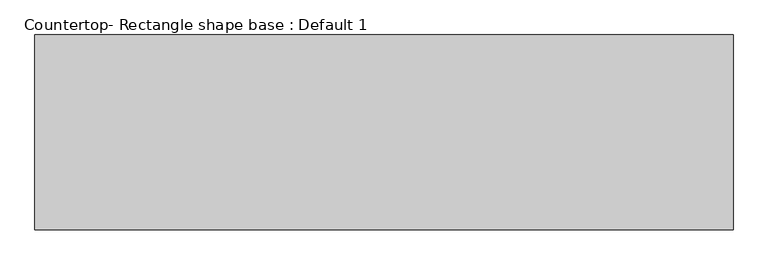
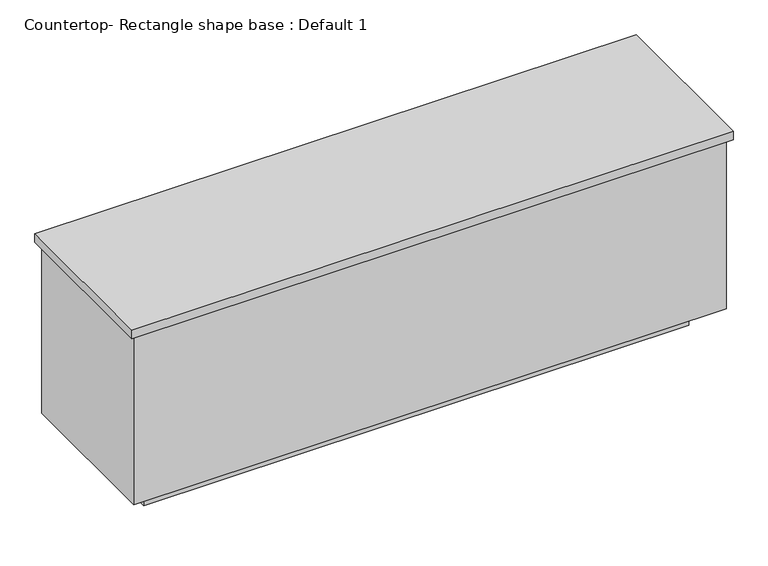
"""IFC4 building model written with IfcOpenShell, lengths in millimetres: proxy geometry, Countertop- Rectangle shape base : Default 1."""

from ifc_helpers import new_model, si_unit, frame, origin, origin_with_axes, place, context, project, spatial, polyline, outline, extrude, source, transform, mapped, element, save


def countertop_rectangle_shape_base_default_1_9c429990(model_context):
    return source(origin(), model_context, "Body", "SweptSolid", [
        extrude(outline(polyline([(-533.4, 19.05), (-533.4, 742.95), (2057.4, 742.95), (2057.4, 19.05), (-533.4, 19.05)])), frame((0.0, 0.0, 876.3), z_axis=(0.0, 0.0, 1.0), x_axis=(1.0, 0.0, 0.0)), (0.0, 0.0, 1.0), 38.1),
        extrude(outline(polyline([(2038.35, 723.9), (2038.35, 38.1), (-514.35, 38.1), (-514.35, 723.9), (2038.35, 723.9)])), frame((0.0, 0.0, 101.6), z_axis=(0.0, 0.0, 1.0), x_axis=(1.0, 0.0, 0.0)), (0.0, 0.0, 1.0), 774.7),
        extrude(outline(polyline([(1936.75, 622.3), (1936.75, 139.7), (-412.75, 139.7), (-412.75, 622.3), (1936.75, 622.3)])), origin_with_axes(), (0.0, 0.0, 1.0), 101.6),
    ])


if __name__ == "__main__":
    model = new_model("IFC4")
    model_context = context("Model", 3, world=origin())
    ifc_project = project(units=[si_unit("LENGTHUNIT", "METRE", prefix="MILLI")], contexts=[model_context])
    site = spatial("IfcSite", under=ifc_project)
    building = spatial("IfcBuilding", under=site)
    placement = place(None, origin())
    countertop_rectangle_shape_base_default_1_shape = countertop_rectangle_shape_base_default_1_9c429990(model_context)
    element("IfcBuildingElementProxy", 1, Name="Countertop- Rectangle shape base : Default 1", ObjectType="Countertop- Rectangle shape base : Default 1", at=placement, inside=building, context=model_context, shape_type="MappedRepresentation", body=[
        mapped(countertop_rectangle_shape_base_default_1_shape, transform((0.0, 0.0, 0.0), x_axis=(1.0, 0.0, 0.0), y_axis=(0.0, 1.0, 0.0), z_axis=(0.0, 0.0, 1.0))),
    ])
    save(model, "model.ifc")
